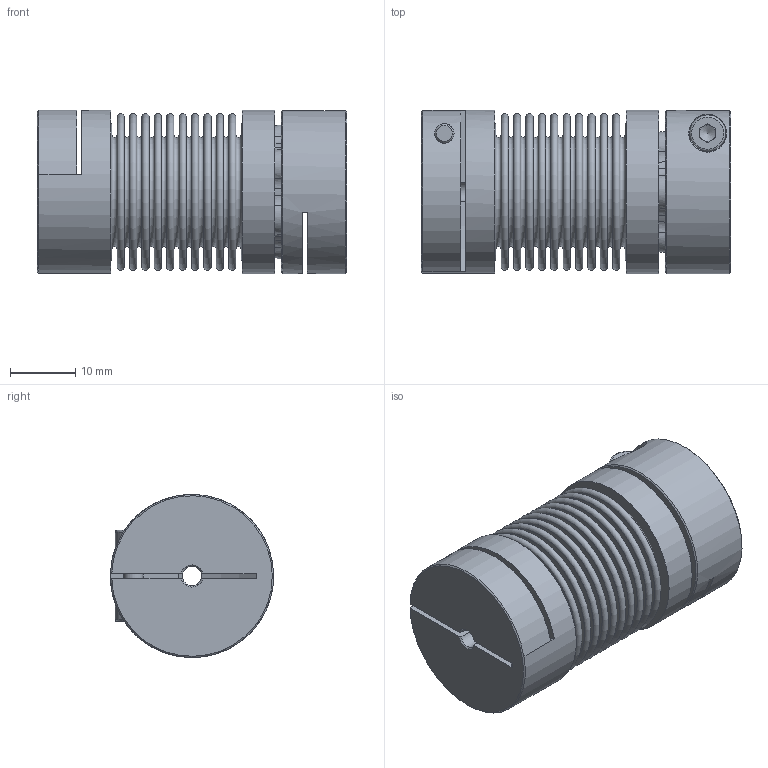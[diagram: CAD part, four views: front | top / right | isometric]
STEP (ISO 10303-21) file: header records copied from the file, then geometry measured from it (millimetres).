
FILE_DESCRIPTION( ( 'KBE1/14 - N7H8 - N14H7 - 98 Sh' ), '1' );
FILE_NAME( 'K:/Konstruktion/Fertigungszeichnungen/Metallbalgkupplung/KB2P/20/KB2P-20-47.stp', '14.12.2015', ( 'KBK-Antriebstechnik' ), ( 'KBK-Antriebstechnik' ), 'PSStep 16.0.42', 'Solid Edge St6', ' ' );
FILE_SCHEMA( ( 'AUTOMOTIVE_DESIGN { 1 0 10303 214 1 1 1 1 }' ) );
Length unit declared in the file: millimetre
Products named in the file (6): Assem1; Stecknabe KB2P-20; Balgaufnahme KB2P-20 für Step; BL20_Standard_0; KN20_Standard_4; Socket Head Cap Screw_DIN_DIN 912 M3 x 10 --- 10N_0
Assembly tree (6 placements, depth 2):
  Assem1
    Stecknabe KB2P-20
    Balgaufnahme KB2P-20 für Step
    BL20_Standard_0
    KN20_Standard_4
    Socket Head Cap Screw_DIN_DIN 912 M3 x 10 --- 10N_0  x2
Bounding box: 47.35 x 25 x 25 mm (x, y, z)
Volume: 13230.2 mm3; surface area: 19526.7 mm2
Topology: 6 solids, 6 shells, 235 faces, 512 edges, 334 vertices
Faces by surface type: plane 99, cone 60, torus 51, cylinder 25
Full cylindrical faces by diameter (mm): 2.459 x1, 3 x5, 3.2 x2, 5.5 x2, 21 x2, 21.3 x2, 25 x3
Entity records: 7639 total; most frequent: CARTESIAN_POINT 1170, DIRECTION 1061, ORIENTED_EDGE 768, AXIS2_PLACEMENT_3D 474, EDGE_CURVE 384, EDGE_LOOP 346, VERTEX_POINT 315, FACE_OUTER_BOUND 277
